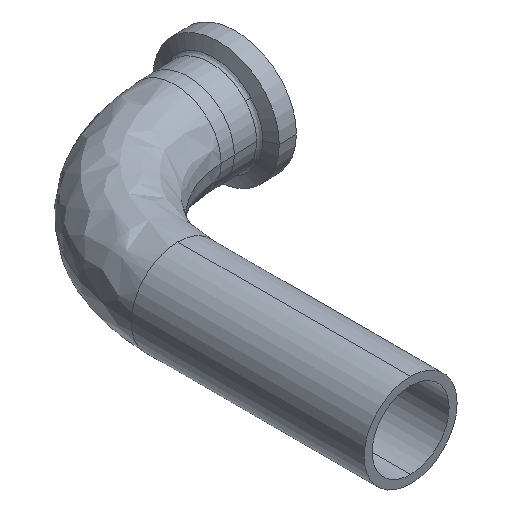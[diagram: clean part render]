
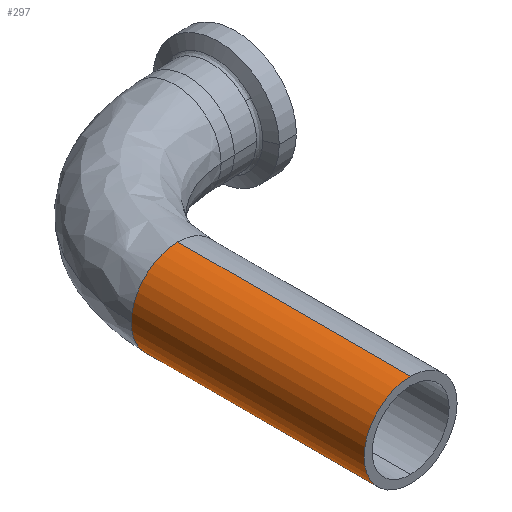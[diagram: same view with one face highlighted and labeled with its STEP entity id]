
A CAD part, isometric view. The second image highlights one B-rep face of the part: STEP entity #297.
In plain terms, the highlighted cylindrical face has radius 9.525 mm (diameter 19.05 mm), a partial arc.
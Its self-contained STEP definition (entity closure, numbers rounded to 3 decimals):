
#14 = VERTEX_POINT ( 'NONE', #970 ) ;
#29 = EDGE_CURVE ( 'NONE', #35, #14, #840, .T. ) ;
#35 = VERTEX_POINT ( 'NONE', #1000 ) ;
#136 = EDGE_CURVE ( 'NONE', #14, #386, #881, .T. ) ;
#165 = CARTESIAN_POINT ( 'NONE',  ( 0., 0., 9.525 ) ) ;
#179 = CARTESIAN_POINT ( 'NONE',  ( 0., 47.681, 0. ) ) ;
#261 = CARTESIAN_POINT ( 'NONE',  ( 0., 0., 0. ) ) ;
#268 = DIRECTION ( 'NONE',  ( 0., 1., 0. ) ) ;
#274 = DIRECTION ( 'NONE',  ( 0., 0., -1. ) ) ;
#293 = CIRCLE ( 'NONE', #836, 9.525 ) ;
#297 = ADVANCED_FACE ( 'NONE', ( #613 ), #533, .T. ) ;
#299 = ORIENTED_EDGE ( 'NONE', *, *, #29, .T. ) ;
#364 = EDGE_CURVE ( 'NONE', #386, #557, #463, .T. ) ;
#368 = EDGE_LOOP ( 'NONE', ( #850, #609, #299, #1336, #1077 ) ) ;
#375 = DIRECTION ( 'NONE',  ( 0., 0., -1. ) ) ;
#386 = VERTEX_POINT ( 'NONE', #688 ) ;
#443 = DIRECTION ( 'NONE',  ( 0., -1., 0. ) ) ;
#457 = CARTESIAN_POINT ( 'NONE',  ( 0., 47.681, -9.525 ) ) ;
#463 = CIRCLE ( 'NONE', #1181, 9.525 ) ;
#488 = DIRECTION ( 'NONE',  ( 0., -1., 0. ) ) ;
#533 = CYLINDRICAL_SURFACE ( 'NONE', #913, 9.525 ) ;
#557 = VERTEX_POINT ( 'NONE', #165 ) ;
#609 = ORIENTED_EDGE ( 'NONE', *, *, #1066, .T. ) ;
#613 = FACE_OUTER_BOUND ( 'NONE', #368, .T. ) ;
#688 = CARTESIAN_POINT ( 'NONE',  ( 0., 0., -9.525 ) ) ;
#691 = CARTESIAN_POINT ( 'NONE',  ( 0., 47.681, 9.525 ) ) ;
#716 = DIRECTION ( 'NONE',  ( 0., -1., 0. ) ) ;
#761 = LINE ( 'NONE', #872, #1018 ) ;
#762 = CARTESIAN_POINT ( 'NONE',  ( 0., 47.681, 0. ) ) ;
#836 = AXIS2_PLACEMENT_3D ( 'NONE', #762, #716, #375 ) ;
#840 = CIRCLE ( 'NONE', #1008, 9.525 ) ;
#850 = ORIENTED_EDGE ( 'NONE', *, *, #1171, .F. ) ;
#872 = CARTESIAN_POINT ( 'NONE',  ( 0., 47.681, 9.525 ) ) ;
#877 = VECTOR ( 'NONE', #488, 1000. ) ;
#881 = LINE ( 'NONE', #457, #877 ) ;
#913 = AXIS2_PLACEMENT_3D ( 'NONE', #179, #443, #1250 ) ;
#970 = CARTESIAN_POINT ( 'NONE',  ( 0., 47.681, -9.525 ) ) ;
#1000 = CARTESIAN_POINT ( 'NONE',  ( -9.525, 47.681, 0. ) ) ;
#1008 = AXIS2_PLACEMENT_3D ( 'NONE', #1060, #1064, #1072 ) ;
#1018 = VECTOR ( 'NONE', #1145, 1000. ) ;
#1051 = VERTEX_POINT ( 'NONE', #691 ) ;
#1060 = CARTESIAN_POINT ( 'NONE',  ( 0., 47.681, 0. ) ) ;
#1064 = DIRECTION ( 'NONE',  ( 0., -1., 0. ) ) ;
#1066 = EDGE_CURVE ( 'NONE', #1051, #35, #293, .T. ) ;
#1072 = DIRECTION ( 'NONE',  ( 0., 0., -1. ) ) ;
#1077 = ORIENTED_EDGE ( 'NONE', *, *, #364, .T. ) ;
#1145 = DIRECTION ( 'NONE',  ( 0., -1., 0. ) ) ;
#1171 = EDGE_CURVE ( 'NONE', #1051, #557, #761, .T. ) ;
#1181 = AXIS2_PLACEMENT_3D ( 'NONE', #261, #268, #274 ) ;
#1250 = DIRECTION ( 'NONE',  ( 0., 0., -1. ) ) ;
#1336 = ORIENTED_EDGE ( 'NONE', *, *, #136, .T. ) ;
